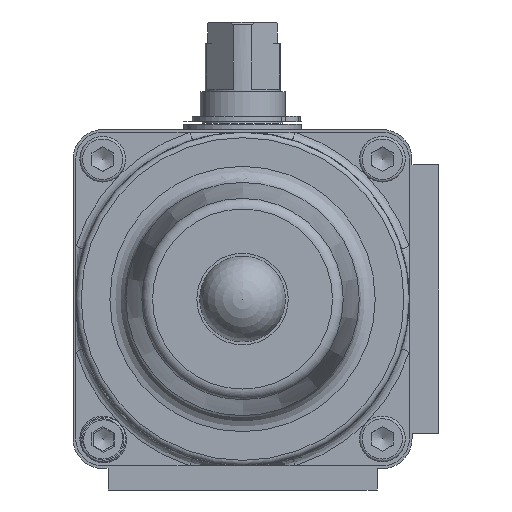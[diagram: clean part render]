
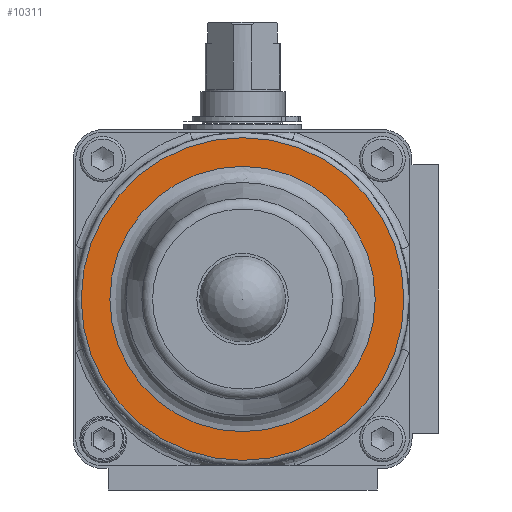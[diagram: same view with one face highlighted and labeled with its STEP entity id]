
A CAD part, left-side view. The second image highlights one B-rep face of the part: STEP entity #10311.
In plain terms, the highlighted planar face has unit normal (-1, 0, 0).
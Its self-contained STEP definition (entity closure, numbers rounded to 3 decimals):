
#10269=CARTESIAN_POINT('',(-58.95,0.,30.0));
#10270=VERTEX_POINT('',#10269);
#10271=CARTESIAN_POINT('',(-58.95,0.0,0.0));
#10272=DIRECTION('',(1.0,0.0,0.0));
#10273=DIRECTION('',(0.0,0.0,-1.0));
#10274=AXIS2_PLACEMENT_3D('',#10271,#10272,#10273);
#10275=CIRCLE('',#10274,30.0);
#10276=EDGE_CURVE('',#10270,#10270,#10275,.T.);
#10292=CARTESIAN_POINT('',(-58.95,0.0,0.0));
#10293=DIRECTION('',(1.0,0.0,0.0));
#10294=DIRECTION('',(0.0,0.0,-1.0));
#10295=AXIS2_PLACEMENT_3D('',#10292,#10293,#10294);
#10296=PLANE('',#10295);
#10297=ORIENTED_EDGE('',*,*,#10276,.F.);
#10298=EDGE_LOOP('',(#10297));
#10299=FACE_OUTER_BOUND('',#10298,.T.);
#10300=CARTESIAN_POINT('',(-58.95,0.,24.66));
#10301=VERTEX_POINT('',#10300);
#10302=CARTESIAN_POINT('',(-58.95,0.0,0.0));
#10303=DIRECTION('',(-1.0,0.0,0.0));
#10304=DIRECTION('',(0.0,0.0,-1.0));
#10305=AXIS2_PLACEMENT_3D('',#10302,#10303,#10304);
#10306=CIRCLE('',#10305,24.66);
#10307=EDGE_CURVE('',#10301,#10301,#10306,.T.);
#10308=ORIENTED_EDGE('',*,*,#10307,.F.);
#10309=EDGE_LOOP('',(#10308));
#10310=FACE_BOUND('',#10309,.T.);
#10311=ADVANCED_FACE('',(#10299,#10310),#10296,.F.);
